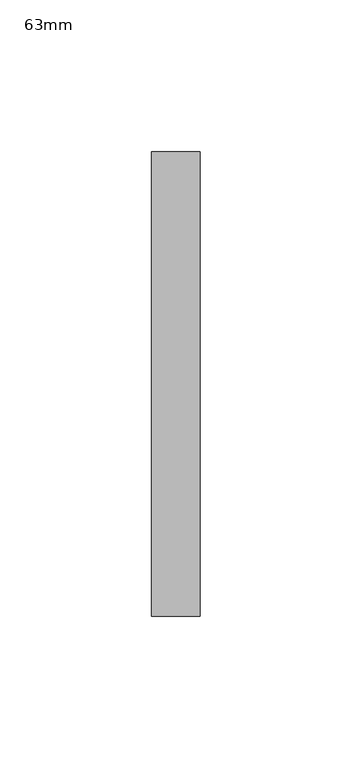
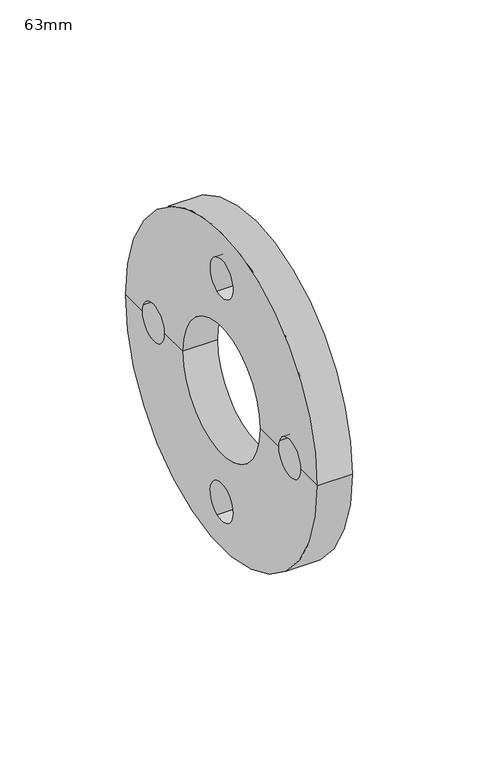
"""IFC4 building model written with IfcOpenShell, lengths in millimetres: pipe fitting geometry, Durapipe_PipeFitting_PVC_BackingFlange : 63mm."""

from ifc_helpers import new_model, si_unit, frame, origin, place, context, project, spatial, polyline, circle_curve, source, transform, mapped, element, save
from ifc_brep_helpers import plane_surface, cylinder_surface, revolved_surface, advanced_brep


def pipe_fitting_63mm_dcb5f1be(model_context):
    return source(origin(), model_context, "Body", "AdvancedBrep", [
        advanced_brep(
        [(-8.0, 76.5, 0.0), (8.0, 76.5, 0.0), (8.0, -76.5, 0.0), (-8.0, -76.5, 0.0), (-8.0, -63.2999737, 0.0), (-8.0, -62.6136327, -3.4673989), (-8.0, -45.3000188, 0.0), (-8.0, -31.0, 0.0), (-8.0, 31.0, 0.0), (-8.0, 45.3000188, 0.0), (-8.0, 45.9863598, -3.4270769), (-8.0, 63.2999737, 0.0), (-8.0, 3.4673989, -62.6136327), (-8.0, -3.4270769, -45.9863598), (-8.0, 62.6136327, 3.4673989), (-8.0, -45.9863598, 3.4270769), (-8.0, -3.4673989, 62.6136327), (-8.0, 3.4270769, 45.9863598), (8.0, 31.0, 0.0), (8.0, -31.0, 0.0), (8.0, -45.3000188, 0.0), (8.0, -62.6136327, -3.4673989), (8.0, -63.2999737, 0.0), (8.0, 63.2999737, 0.0), (8.0, 45.9863598, -3.4270769), (8.0, 45.3000188, 0.0), (8.0, -3.4270769, -45.9863598), (8.0, 3.4673989, -62.6136327), (8.0, 62.6136327, 3.4673989), (8.0, -45.9863598, 3.4270769), (8.0, 3.4270769, 45.9863598), (8.0, -3.4673989, 62.6136327)],
        [
            (0, 1),
            (1, 2, circle_curve(frame((8.0, 0.0, 0.0), z_axis=(-1.0, 0.0, 0.0), x_axis=(0.0, 1.0, 0.0)), 76.5)),
            (2, 3),
            (3, 0, circle_curve(frame((-8.0, 0.0, 0.0), z_axis=(1.0, 0.0, 0.0), x_axis=(0.0, 1.0, 0.0)), 76.5)),
            (0, 3, circle_curve(frame((-8.0, 0.0, 0.0), z_axis=(1.0, 0.0, 0.0), x_axis=(0.0, 1.0, 0.0)), 76.5)),
            (2, 1, circle_curve(frame((8.0, 0.0, 0.0), z_axis=(-1.0, 0.0, 0.0), x_axis=(0.0, 1.0, 0.0)), 76.5)),
            (3, 4),
            (4, 5, circle_curve(frame((-8.0, -54.2999963, -0.020161), z_axis=(1.0, 0.0, 0.0), x_axis=(0.0, -0.9237373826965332, -0.38302643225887)), 9.0)),
            (5, 6, circle_curve(frame((-8.0, -54.2999963, -0.020161), z_axis=(1.0, 0.0, 0.0), x_axis=(0.0, -0.9237373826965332, -0.38302643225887)), 9.0)),
            (6, 7),
            (7, 8, circle_curve(frame((-8.0, 0.0, 0.0), z_axis=(1.0, 0.0, 0.0), x_axis=(0.0, 1.0, 0.0)), 31.0)),
            (8, 9),
            (9, 10, circle_curve(frame((-8.0, 54.2999963, 0.020161), z_axis=(1.0, 0.0, 0.0), x_axis=(0.0, 0.92373738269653, 0.3830264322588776)), 9.0)),
            (10, 11, circle_curve(frame((-8.0, 54.2999963, 0.020161), z_axis=(1.0, 0.0, 0.0), x_axis=(0.0, 0.92373738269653, 0.3830264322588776)), 9.0)),
            (11, 0),
            (12, 13, circle_curve(frame((-8.0, 0.020161, -54.2999963), z_axis=(1.0, 0.0, 0.0), x_axis=(0.0, 0.3830264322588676, -0.9237373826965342)), 9.0)),
            (13, 12, circle_curve(frame((-8.0, 0.020161, -54.2999963), z_axis=(1.0, 0.0, 0.0), x_axis=(0.0, 0.3830264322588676, -0.9237373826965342)), 9.0)),
            (11, 14, circle_curve(frame((-8.0, 54.2999963, 0.020161), z_axis=(1.0, 0.0, 0.0), x_axis=(0.0, 0.92373738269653, 0.3830264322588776)), 9.0)),
            (14, 9, circle_curve(frame((-8.0, 54.2999963, 0.020161), z_axis=(1.0, 0.0, 0.0), x_axis=(0.0, 0.92373738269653, 0.3830264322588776)), 9.0)),
            (8, 7, circle_curve(frame((-8.0, 0.0, 0.0), z_axis=(1.0, 0.0, 0.0), x_axis=(0.0, 1.0, 0.0)), 31.0)),
            (6, 15, circle_curve(frame((-8.0, -54.2999963, -0.020161), z_axis=(1.0, 0.0, 0.0), x_axis=(0.0, -0.9237373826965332, -0.38302643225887)), 9.0)),
            (15, 4, circle_curve(frame((-8.0, -54.2999963, -0.020161), z_axis=(1.0, 0.0, 0.0), x_axis=(0.0, -0.9237373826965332, -0.38302643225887)), 9.0)),
            (16, 17, circle_curve(frame((-8.0, -0.020161, 54.2999963), z_axis=(1.0, 0.0, 0.0), x_axis=(0.0, -0.3830264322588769, 0.9237373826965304)), 9.0)),
            (17, 16, circle_curve(frame((-8.0, -0.020161, 54.2999963), z_axis=(1.0, 0.0, 0.0), x_axis=(0.0, -0.3830264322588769, 0.9237373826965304)), 9.0)),
            (18, 8),
            (7, 19),
            (19, 18, circle_curve(frame((8.0, 0.0, 0.0), z_axis=(1.0, 0.0, 0.0), x_axis=(0.0, 1.0, 0.0)), 31.0)),
            (18, 19, circle_curve(frame((8.0, 0.0, 0.0), z_axis=(1.0, 0.0, 0.0), x_axis=(0.0, 1.0, 0.0)), 31.0)),
            (19, 20),
            (20, 21, circle_curve(frame((8.0, -54.2999963, -0.020161), z_axis=(-1.0, 0.0, 0.0), x_axis=(0.0, -0.9237373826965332, -0.38302643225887)), 9.0)),
            (21, 22, circle_curve(frame((8.0, -54.2999963, -0.020161), z_axis=(-1.0, 0.0, 0.0), x_axis=(0.0, -0.9237373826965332, -0.38302643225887)), 9.0)),
            (22, 2),
            (1, 23),
            (23, 24, circle_curve(frame((8.0, 54.2999963, 0.020161), z_axis=(-1.0, 0.0, 0.0), x_axis=(0.0, 0.92373738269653, 0.3830264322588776)), 9.0)),
            (24, 25, circle_curve(frame((8.0, 54.2999963, 0.020161), z_axis=(-1.0, 0.0, 0.0), x_axis=(0.0, 0.92373738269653, 0.3830264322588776)), 9.0)),
            (25, 18),
            (26, 27, circle_curve(frame((8.0, 0.020161, -54.2999963), z_axis=(-1.0, 0.0, 0.0), x_axis=(0.0, 0.3830264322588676, -0.9237373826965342)), 9.0)),
            (27, 26, circle_curve(frame((8.0, 0.020161, -54.2999963), z_axis=(-1.0, 0.0, 0.0), x_axis=(0.0, 0.3830264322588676, -0.9237373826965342)), 9.0)),
            (25, 28, circle_curve(frame((8.0, 54.2999963, 0.020161), z_axis=(-1.0, 0.0, 0.0), x_axis=(0.0, 0.92373738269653, 0.3830264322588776)), 9.0)),
            (28, 23, circle_curve(frame((8.0, 54.2999963, 0.020161), z_axis=(-1.0, 0.0, 0.0), x_axis=(0.0, 0.92373738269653, 0.3830264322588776)), 9.0)),
            (22, 29, circle_curve(frame((8.0, -54.2999963, -0.020161), z_axis=(-1.0, 0.0, 0.0), x_axis=(0.0, -0.9237373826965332, -0.38302643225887)), 9.0)),
            (29, 20, circle_curve(frame((8.0, -54.2999963, -0.020161), z_axis=(-1.0, 0.0, 0.0), x_axis=(0.0, -0.9237373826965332, -0.38302643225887)), 9.0)),
            (30, 31, circle_curve(frame((8.0, -0.020161, 54.2999963), z_axis=(-1.0, 0.0, 0.0), x_axis=(0.0, -0.3830264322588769, 0.9237373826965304)), 9.0)),
            (31, 30, circle_curve(frame((8.0, -0.020161, 54.2999963), z_axis=(-1.0, 0.0, 0.0), x_axis=(0.0, -0.3830264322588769, 0.9237373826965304)), 9.0)),
            (26, 13),
            (12, 27),
            (24, 10),
            (14, 28),
            (30, 17),
            (16, 31),
            (29, 15),
            (5, 21),
        ],
        [
            cylinder_surface(frame((-26.7738734, 0.0, 0.0), z_axis=(-1.0, 0.0, 0.0), x_axis=(0.0, 1.0, 0.0)), 76.5),
            plane_surface(frame((-8.0, 0.0, 0.0), z_axis=(-1.0, 0.0, 0.0), x_axis=(0.0, 1.0, 0.0))),
            revolved_surface(polyline([(-8.0, 31.0, 0.0), (8.0, 31.0, 0.0)]), (-26.7738734, 0.0, 0.0), (-1.0, 0.0, 0.0)),
            plane_surface(frame((8.0, 0.0, 0.0), z_axis=(1.0, 0.0, 0.0), x_axis=(0.0, 1.0, 0.0))),
            revolved_surface(polyline([(-8.000000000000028, 3.4673988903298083, -62.613632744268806), (7.999999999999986, 3.4673988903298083, -62.613632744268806)]), (42.0, 0.020161, -54.2999963), (-1.0000000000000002, 0.0, 0.0)),
            revolved_surface(polyline([(-8.0, 62.61363274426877, 3.4673988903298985), (8.0, 62.61363274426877, 3.4673988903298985)]), (42.0, 54.2999963, 0.020161), (-1.0, 0.0, 0.0)),
            revolved_surface(polyline([(-8.000000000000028, -3.467398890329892, 62.61363274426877), (7.999999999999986, -3.467398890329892, 62.61363274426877)]), (42.0, -0.020161, 54.2999963), (-1.0000000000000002, 0.0, 0.0)),
            revolved_surface(polyline([(-8.0, -62.6136327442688, -3.46739889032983), (8.0, -62.6136327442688, -3.46739889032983)]), (42.0, -54.2999963, -0.020161), (-1.0, 0.0, 0.0)),
        ],
        [
            (0, [[1, 2, 3, 4]]),
            (0, [[-1, 5, -3, 6]]),
            (1, [[-4, 7, 8, 9, 10, 11, 12, 13, 14, 15], [16, 17]]),
            (1, [[-5, -15, 18, 19, -12, 20, -10, 21, 22, -7], [23, 24]]),
            (2, [[25, -11, 26, 27]]),
            (2, [[-25, 28, -26, -20]]),
            (3, [[-27, 29, 30, 31, 32, -2, 33, 34, 35, 36], [37, 38]]),
            (3, [[-28, -36, 39, 40, -33, -6, -32, 41, 42, -29], [43, 44]]),
            (4, [[45, -16, 46, -37]]),
            (4, [[-45, -38, -46, -17]]),
            (5, [[47, -13, -19, 48, -39, -35]]),
            (5, [[-47, -34, -40, -48, -18, -14]]),
            (6, [[49, -23, 50, -43]]),
            (6, [[-49, -44, -50, -24]]),
            (7, [[51, -21, -9, 52, -30, -42]]),
            (7, [[-51, -41, -31, -52, -8, -22]]),
        ],
    ),
    ])


if __name__ == "__main__":
    model = new_model("IFC4")
    model_context = context("Model", 3, world=origin())
    ifc_project = project(units=[si_unit("LENGTHUNIT", "METRE", prefix="MILLI")], contexts=[model_context])
    site = spatial("IfcSite", under=ifc_project)
    building = spatial("IfcBuilding", under=site)
    placement = place(None, origin())
    pipe_fitting_63mm_shape = pipe_fitting_63mm_dcb5f1be(model_context)
    element("IfcPipeFitting", 1, ObjectType="Durapipe_PipeFitting_PVC_BackingFlange : 63mm", at=placement, inside=building, context=model_context, shape_type="MappedRepresentation", body=[
        mapped(pipe_fitting_63mm_shape, transform((0.0, 0.0, 0.0), x_axis=(1.0, 0.0, 0.0), y_axis=(0.0, 1.0, 0.0), z_axis=(0.0, 0.0, 1.0))),
    ])
    save(model, "model.ifc")
